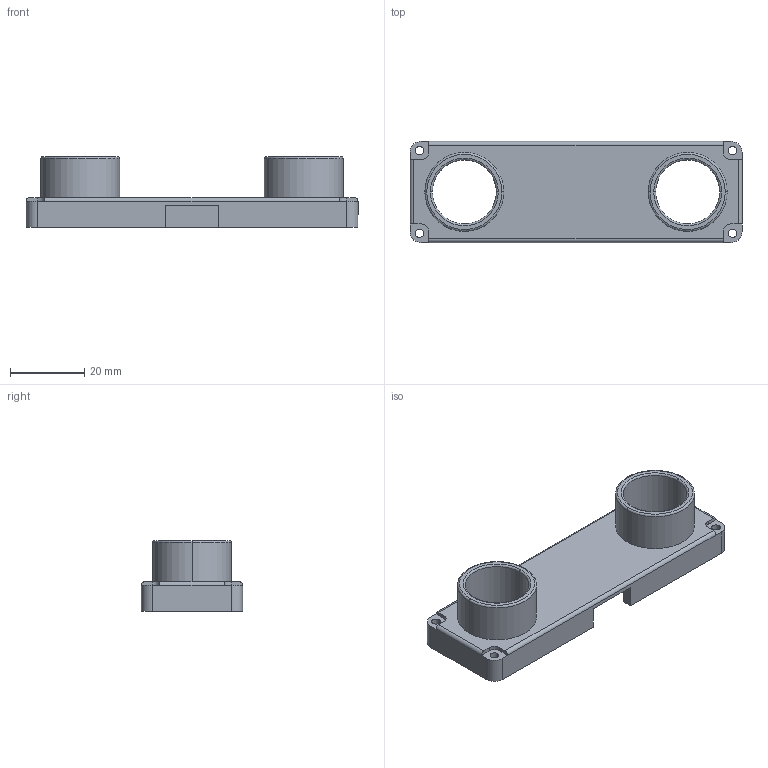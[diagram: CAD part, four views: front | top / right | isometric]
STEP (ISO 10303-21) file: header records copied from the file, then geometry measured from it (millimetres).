
FILE_DESCRIPTION (( 'STEP AP203' ), '1' );
FILE_NAME ('眈儂裔啣7.24.STEP', '2025-07-24T08:16:14', ( '' ), ( '' ), 'SwSTEP 2.0', 'SolidWorks 2023', '' );
FILE_SCHEMA (( 'CONFIG_CONTROL_DESIGN' ));
Length unit declared in the file: millimetre
Products named in the file (1): 相机盖板7.24
Bounding box: 89.2 x 27.2 x 19 mm (x, y, z)
Volume: 9941.2 mm3; surface area: 9703.7 mm2
Topology: 1 solids, 1 shells, 68 faces, 176 edges, 112 vertices
Faces by surface type: cylinder 32, plane 28, torus 8
Entity records: 2193 total; most frequent: DIRECTION 394, CARTESIAN_POINT 357, ORIENTED_EDGE 352, EDGE_CURVE 176, AXIS2_PLACEMENT_3D 149, VERTEX_POINT 112, VECTOR 96, LINE 96
